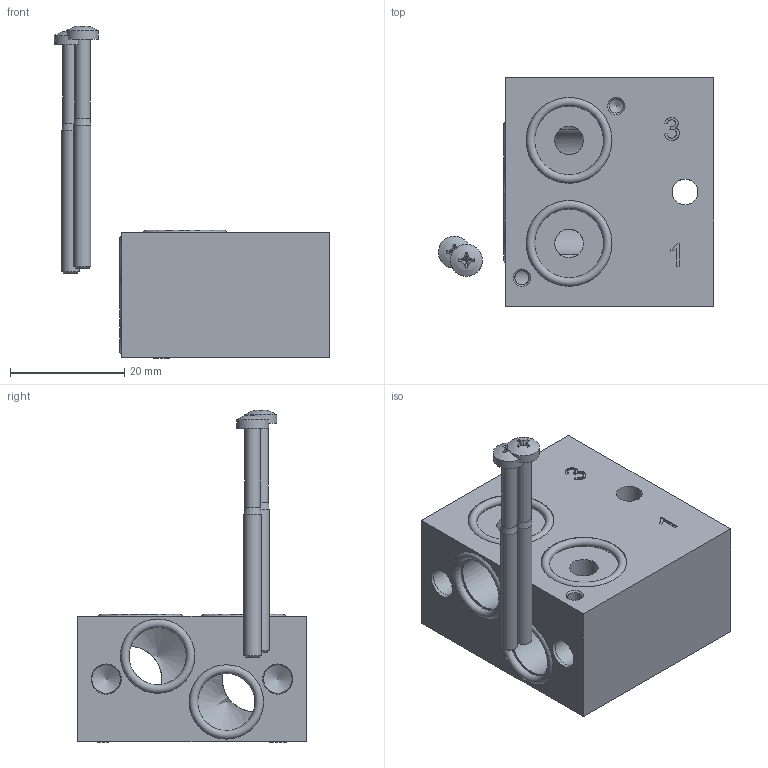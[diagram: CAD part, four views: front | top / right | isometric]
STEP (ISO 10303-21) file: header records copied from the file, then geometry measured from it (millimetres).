
FILE_DESCRIPTION( ( 'Unknown' ), '1' );
FILE_NAME( 'Q:/Solid Edge ST4/STEP/R 3 503 GR.stp', 'Unknown', ( 'Unknown' ), ( 'Unknown' ), 'PSStep 17.0.49', 'Unknown', ' ' );
FILE_SCHEMA( ( 'AUTOMOTIVE_DESIGN { 1 0 10303 214 1 1 1 1 }' ) );
Length unit declared in the file: millimetre
Products named in the file (6): Assem1; O-Ring 10x1,5 NBR70; O-Ring 12x1,5 NBR70; DIN914-A2-M5X6; AR 3 503 GR; DIN7985-H-A2-M3x40
Assembly tree (9 placements, depth 2):
  Assem1
    O-Ring 10x1,5 NBR70  x2
    O-Ring 12x1,5 NBR70  x2
    DIN914-A2-M5X6  x2
    AR 3 503 GR
    DIN7985-H-A2-M3x40  x2
Bounding box: 48.08 x 40 x 58.02 mm (x, y, z)
Volume: 23965.7 mm3; surface area: 11720.4 mm2
Topology: 9 solids, 9 shells, 149 faces, 365 edges, 228 vertices
Faces by surface type: plane 80, cylinder 30, cone 27, extrusion 6, torus 4, sphere 2
Full cylindrical faces by diameter (mm): 2.459 x4, 2.693 x2, 3 x2, 4.134 x2, 4.5 x1, 5 x6, 5.6 x2, 10 x2, 11.445 x2, 13 x2, 15 x2
Entity records: 4793 total; most frequent: CARTESIAN_POINT 1160, DIRECTION 453, ORIENTED_EDGE 378, PRESENTATION_STYLE_ASSIGNMENT 209, COLOUR_RGB 209, EDGE_CURVE 189, AXIS2_PLACEMENT_3D 185, STYLED_ITEM 167
